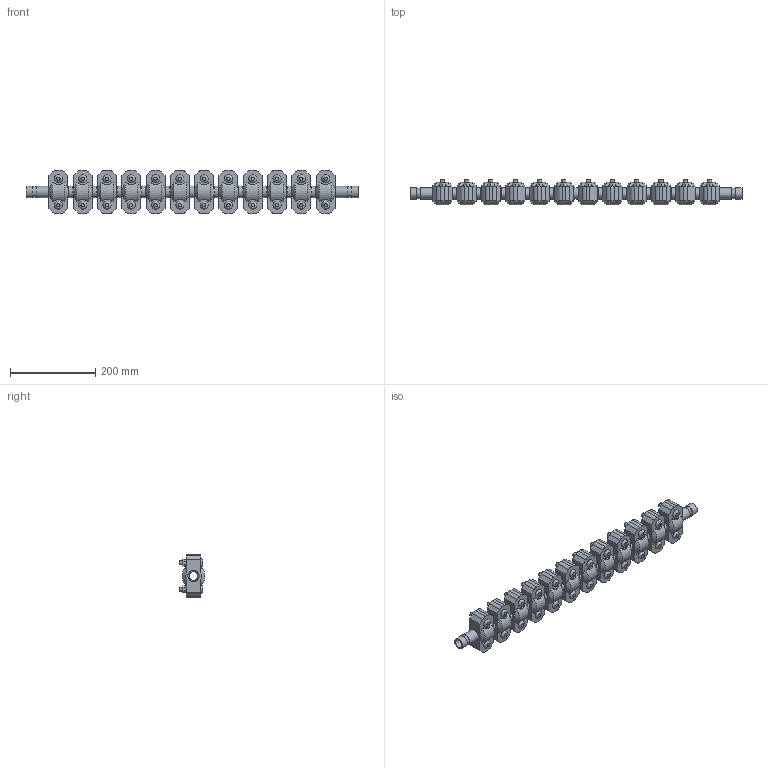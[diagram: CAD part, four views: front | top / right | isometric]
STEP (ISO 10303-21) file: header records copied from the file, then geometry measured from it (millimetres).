
FILE_DESCRIPTION(/* description */ ('VIC EXPANSION JOINT 12 COUPLINGS COMPRESSED STYLE 155 (OGS)','CAx-IF Rec.Pracs.---Representation and Presentation of Product Manufacturing Information (PMI)---4.0---2014-10-13'),/* implementation_level */ '2;1');
FILE_NAME(/* name */ 'C:\Users\kkamble\AppData\Roaming\Autodesk\ApplicationPlugins\Victaulic.Temp\A100\Victaulic_IPS_Expansion Joint_Compressed_12 Couplings_Style 155 (OGS)_0.75 (20).stp',/* time_stamp */ '2021-06-27T00:20:44+02:00',/* author */ ('kkamble'),/* organization */ ('Victaulic'),/* preprocessor_version */ 'ST-DEVELOPER v17.2',/* originating_system */ 'Autodesk Inventor 2019',/* authorisation */ '');
FILE_SCHEMA (('AP242_MANAGED_MODEL_BASED_3D_ENGINEERING_MIM_LF { 1 0 10303 442 1 1 4 }'));
Length unit declared in the file: inch
Products named in the file (4): 155-0.75; Nipple-0.75; Nipple-0.75_1; 077-0.75
Assembly tree (25 placements, depth 2):
  155-0.75
    Nipple-0.75  x2
    Nipple-0.75_1  x11
    077-0.75  x12
Bounding box: 781.05 x 61.1 x 101.6 mm (x, y, z)
Volume: 1834199.5 mm3; surface area: 451986.2 mm2
Topology: 25 solids, 49 shells, 840 faces, 2058 edges, 1440 vertices
Faces by surface type: plane 486, cylinder 282, cone 48, bspline 24
Full cylindrical faces by diameter (mm): 9.525 x48, 11.43 x24, 20.93 x13, 23.825 x26, 26.67 x51
Entity records: 3019 total; most frequent: CARTESIAN_POINT 587, DIRECTION 495, ORIENTED_EDGE 398, AXIS2_PLACEMENT_3D 200, EDGE_CURVE 199, VERTEX_POINT 142, EDGE_LOOP 105, LINE 95
